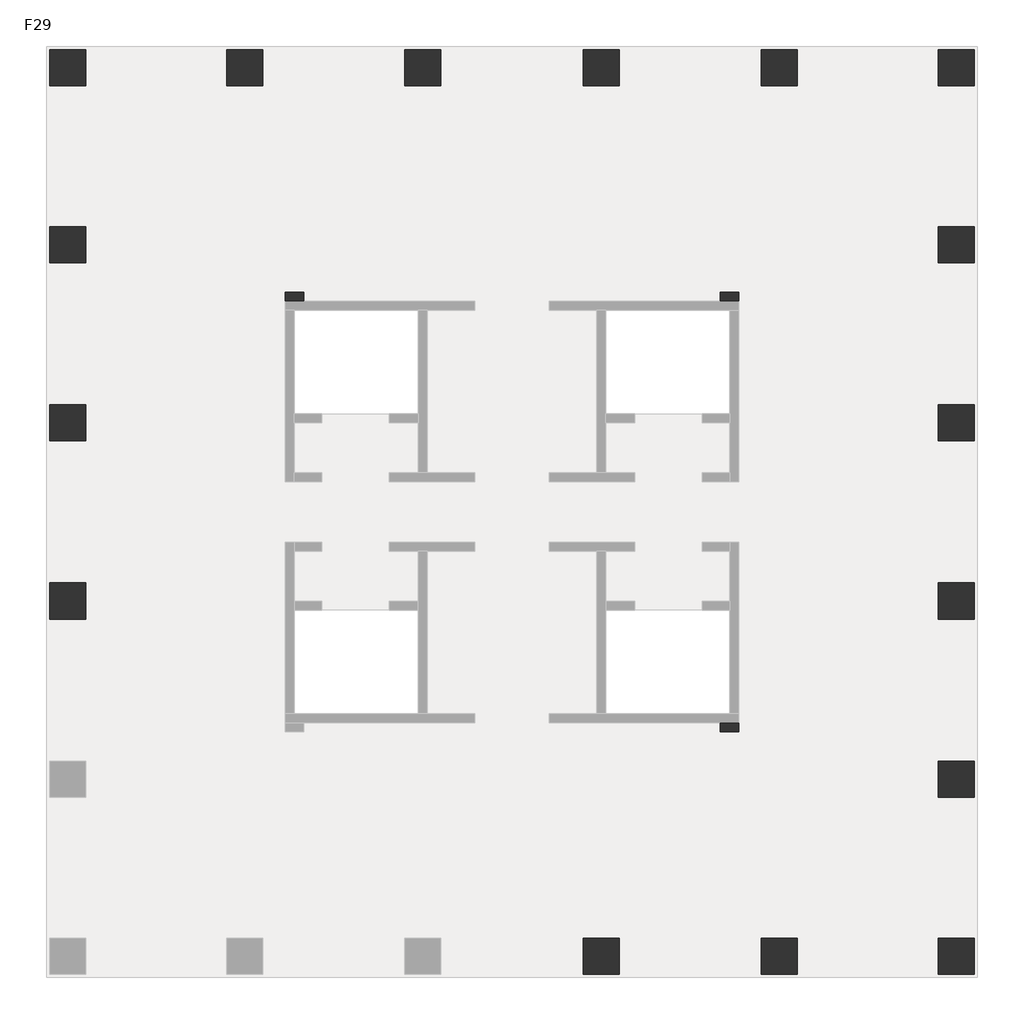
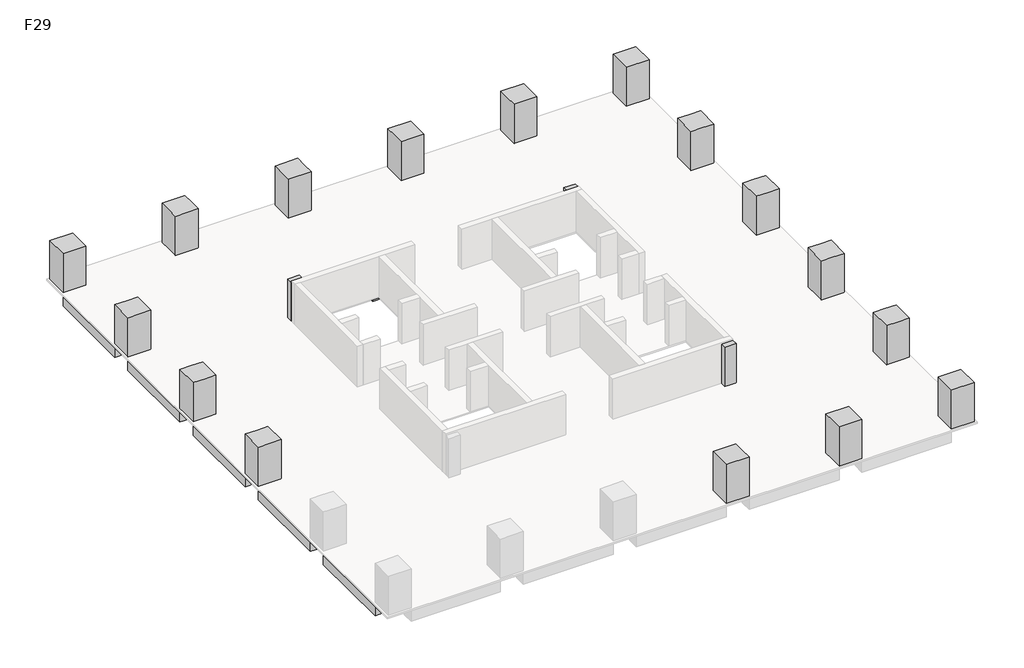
# One storey, part 2 of 2: 19 columns, 17 beams.
"""IFC4 building model written with IfcOpenShell, lengths in millimetres."""

import ifcopenshell
import ifcopenshell.guid

model = None  # the IFC model being written
_history = None  # IfcOwnerHistory: only IFC2X3 demands one
_inside = {}  # id of a spatial element -> (the spatial element, [elements in it])
_under = {}  # id of a project, library or spatial element -> (it, [spatial elements below it])
_declared = {}  # id of a project -> (the project, [libraries it declares])
_typed = {}  # id of a type object -> (the type object, [elements of that type])
_made_of = {}  # id of a material, layer set ... -> (it, [elements and type objects made of it])


def new_model(schema):
    """Start an empty IFC model of exactly this schema.

    Asked for "IFC4X3", IfcOpenShell would pick the latest addendum, in which some entities
    have other attributes; the version numbers below select the first issue.
    IFC2X3 requires an IfcOwnerHistory on every rooted entity: one is made here for all.
    """
    global model, _history
    if schema == "IFC4X3":
        model = ifcopenshell.file(schema_version=(4, 3, 0, 0))
    else:
        model = ifcopenshell.file(schema=schema)
    _inside.clear()
    _under.clear()
    _declared.clear()
    _typed.clear()
    _made_of.clear()
    _history = None
    if model.schema == "IFC2X3":
        org = make("IfcOrganization", Name="unknown")
        user = make(
            "IfcPersonAndOrganization",
            ThePerson=make("IfcPerson", FamilyName="unknown"),
            TheOrganization=org,
        )
        app = make(
            "IfcApplication",
            ApplicationDeveloper=org,
            Version="unknown",
            ApplicationFullName="unknown",
            ApplicationIdentifier="unknown",
        )
        _history = make(
            "IfcOwnerHistory",
            OwningUser=user,
            OwningApplication=app,
            ChangeAction="ADDED",
            CreationDate=0,
        )
    return model


def make(cls, **values):
    """One entity of the class cls with the attributes given. An attribute that is None is left unset."""
    return model.create_entity(
        cls, **{name: value for name, value in values.items() if value is not None}
    )


def rooted(cls, **values):
    """An entity with a GlobalId (a new one), such as an element, a storey or a relation."""
    return make(cls, GlobalId=ifcopenshell.guid.new(), OwnerHistory=_history, **values)


def si_unit(unit_type, name, prefix=None):
    """IfcSIUnit, for example si_unit("LENGTHUNIT", "METRE", prefix="MILLI")."""
    return make("IfcSIUnit", UnitType=unit_type, Prefix=prefix, Name=name)


def assignment(units):
    """IfcUnitAssignment: the units of a project."""
    return None if units is None else make("IfcUnitAssignment", Units=units)


def point(xyz):
    """IfcCartesianPoint."""
    return None if xyz is None else make("IfcCartesianPoint", Coordinates=xyz)


def direction(xyz):
    """IfcDirection."""
    return None if xyz is None else make("IfcDirection", DirectionRatios=xyz)


def frame(location, z_axis=None, x_axis=None):
    """IfcAxis2Placement3D, a coordinate frame: its origin and axes. An axis left out is left unset."""
    return make(
        "IfcAxis2Placement3D",
        Location=point(location),
        Axis=direction(z_axis),
        RefDirection=direction(x_axis),
    )


def origin():
    """The frame at (0, 0, 0) with its axes left unset."""
    return frame((0.0, 0.0, 0.0))


def place(relative_to, where):
    """IfcLocalPlacement: puts the frame where relative to a parent placement (None: the world)."""
    return make(
        "IfcLocalPlacement", PlacementRelTo=relative_to, RelativePlacement=where
    )


def context(
    kind, dimensions, precision=None, world=None, true_north=None, identifier=None
):
    """IfcGeometricRepresentationContext, for example the 3D "Model" context."""
    return make(
        "IfcGeometricRepresentationContext",
        ContextIdentifier=identifier,
        ContextType=kind,
        CoordinateSpaceDimension=dimensions,
        Precision=precision,
        WorldCoordinateSystem=world,
        TrueNorth=true_north,
    )


def project(units=None, contexts=None):
    """IfcProject with its units and contexts."""
    return rooted(
        "IfcProject",
        Name="project",
        RepresentationContexts=contexts,
        UnitsInContext=assignment(units),
    )


def spatial(cls, under=None, at=None, **own):
    """A site, building, storey or space (cls), placed at a placement, below another one or the project."""
    s = rooted(cls, ObjectPlacement=at, **own)
    if under is not None:
        _under.setdefault(under.id(), (under, []))[1].append(s)
    return s


def polyline(points):
    """IfcPolyline through the points."""
    return make("IfcPolyline", Points=[point(p) for p in points])


def outline(outer, holes=None, kind="AREA"):
    """IfcArbitraryClosedProfileDef: a profile drawn as a closed curve; with holes, ...WithVoids."""
    if holes is None:
        return make("IfcArbitraryClosedProfileDef", ProfileType=kind, OuterCurve=outer)
    return make(
        "IfcArbitraryProfileDefWithVoids",
        ProfileType=kind,
        OuterCurve=outer,
        InnerCurves=holes,
    )


def extrude(swept, where, along, depth):
    """IfcExtrudedAreaSolid: the profile swept, set in the frame where, extruded along a direction by depth."""
    return make(
        "IfcExtrudedAreaSolid",
        SweptArea=swept,
        Position=where,
        ExtrudedDirection=direction(along),
        Depth=depth,
    )


def faces_of(points, faces, orient=None, outer=None):
    """IfcFace entities. A face is a list of loops; a loop is a list of indices into points, from 0.

    orient and outer hold one flag for each loop. By default every Orientation is true, the
    first loop of a face is its IfcFaceOuterBound and the others are IfcFaceBound.
    """
    made = []
    for i, loops in enumerate(faces):
        bounds = []
        for j, loop in enumerate(loops):
            is_outer = j == 0 if outer is None else outer[i][j]
            bounds.append(
                make(
                    "IfcFaceOuterBound" if is_outer else "IfcFaceBound",
                    Bound=make("IfcPolyLoop", Polygon=[points[k] for k in loop]),
                    Orientation=True if orient is None else orient[i][j],
                )
            )
        made.append(make("IfcFace", Bounds=bounds))
    return made


def faceted_brep(points, faces, orient=None, outer=None, voids=None):
    """IfcFacetedBrep: a solid bounded by flat faces; with voids (closed shells), ...WithVoids."""
    shared = [point(p) for p in points]
    hull = make("IfcClosedShell", CfsFaces=faces_of(shared, faces, orient, outer))
    if voids is None:
        return make("IfcFacetedBrep", Outer=hull)
    return make(
        "IfcFacetedBrepWithVoids",
        Outer=hull,
        Voids=[
            make(cls, CfsFaces=faces_of(shared, fs, o, b)) for cls, fs, o, b in voids
        ],
    )


def shape(context_of_items, identifier, shape_type, items):
    """IfcShapeRepresentation: the items that make up one representation, for example the "Body"."""
    return make(
        "IfcShapeRepresentation",
        ContextOfItems=context_of_items,
        RepresentationIdentifier=identifier,
        RepresentationType=shape_type,
        Items=items,
    )


def made_of(thing, what):
    """Note that an element or type object is made of a material, layer set ...; save() writes the relation."""
    if what is not None:
        _made_of.setdefault(what.id(), (what, []))[1].append(thing)
    return thing


def element(
    cls,
    number,
    at=None,
    inside=None,
    cuts=None,
    type_object=None,
    material=None,
    context=None,
    identifier="Body",
    shape_type=None,
    held_by="IfcProductDefinitionShape",
    body=None,
    shapes=None,
    **own,
):
    """One element of the class cls, such as IfcWall. Its Tag is "e" and its number.

    at: its placement. inside: the storey or other place that contains it. cuts: it is an
    opening in that element (IfcRelVoidsElement). A single representation is given by context,
    identifier, shape_type and body (its items); several are given by shapes. held_by: the class
    of the entity that holds the representations. save() writes the other relations.
    """
    e = rooted(cls, Tag="e%d" % number, ObjectPlacement=at, **own)
    if body is not None:
        shapes = [shape(context, identifier, shape_type, body)]
    if shapes is not None:
        e.Representation = make(held_by, Representations=shapes)
    if inside is not None:
        _inside.setdefault(inside.id(), (inside, []))[1].append(e)
    if cuts is not None:
        rooted(
            "IfcRelVoidsElement", RelatingBuildingElement=cuts, RelatedOpeningElement=e
        )
    if type_object is not None:
        _typed.setdefault(type_object.id(), (type_object, []))[1].append(e)
    return made_of(e, material)


def aggregate(whole, parts):
    """IfcRelAggregates: a whole, such as a stair, and the parts it consists of."""
    return rooted("IfcRelAggregates", RelatingObject=whole, RelatedObjects=parts)


def save(model, path):
    """Write the relations noted so far, then the file.

    IfcRelAggregates (storeys below a building ...), IfcRelContainedInSpatialStructure (elements
    in a storey), IfcRelDefinesByType, IfcRelAssociatesMaterial and IfcRelDeclares: one each for
    every whole, place, type object, material and project.
    """
    for whole, parts in _under.values():
        aggregate(whole, parts)
    for where, things in _inside.values():
        rooted(
            "IfcRelContainedInSpatialStructure",
            RelatedElements=things,
            RelatingStructure=where,
        )
    for kind, things in _typed.values():
        rooted("IfcRelDefinesByType", RelatedObjects=things, RelatingType=kind)
    for what, things in _made_of.values():
        rooted("IfcRelAssociatesMaterial", RelatedObjects=things, RelatingMaterial=what)
    for by, libraries in _declared.values():
        rooted("IfcRelDeclares", RelatingContext=by, RelatedDefinitions=libraries)
    model.write(path)


model = new_model("IFC4")

# Units and contexts
model_context = context("Model", 3, world=origin())
ifc_project = project(units=[si_unit("LENGTHUNIT", "METRE", prefix="MILLI")], contexts=[model_context])

# Site, building, storey
site = spatial("IfcSite", under=ifc_project)
building = spatial("IfcBuilding", under=site)
storey = spatial("IfcBuildingStorey", under=building, Name="F29", Elevation=105000.0)

# Beams
placement = place(None, origin())
element("IfcBeam", 1, ObjectType="混凝土 - 矩形梁 : KL(5)-800x1000", at=placement, inside=storey, context=model_context, shape_type="SweptSolid", body=[
    extrude(outline(polyline([(25327.3257831, 27051.0498658), (25327.3257831, 26251.0498658), (19077.3257831, 26251.0498658), (19077.3257831, 27051.0498658), (25327.3257831, 27051.0498658)])), frame((0.0, 0.0, 104000.0), z_axis=(0.0, 0.0, 1.0), x_axis=(1.0, 0.0, 0.0)), (0.0, 0.0, 1.0), 900.0),
    extrude(outline(polyline([(-12472.6742169, 26251.0498658), (-12472.6742169, 27051.0498658), (-6222.6742169, 27051.0498658), (-6222.6742169, 26251.0498658), (-12472.6742169, 26251.0498658)])), frame((0.0, 0.0, 104000.0), z_axis=(0.0, 0.0, 1.0), x_axis=(1.0, 0.0, 0.0)), (0.0, 0.0, 1.0), 900.0),
    extrude(outline(polyline([(-4622.6742169, 26251.0498658), (-4622.6742169, 27051.0498658), (1677.3257831, 27051.0498658), (1677.3257831, 26251.0498658), (-4622.6742169, 26251.0498658)])), frame((0.0, 0.0, 104000.0), z_axis=(0.0, 0.0, 1.0), x_axis=(1.0, 0.0, 0.0)), (0.0, 0.0, 1.0), 900.0),
    extrude(outline(polyline([(3277.3257831, 26251.0498658), (3277.3257831, 27051.0498658), (9577.3257831, 27051.0498658), (9577.3257831, 26251.0498658), (3277.3257831, 26251.0498658)])), frame((0.0, 0.0, 104000.0), z_axis=(0.0, 0.0, 1.0), x_axis=(1.0, 0.0, 0.0)), (0.0, 0.0, 1.0), 900.0),
    extrude(outline(polyline([(11177.3257831, 26251.0498658), (11177.3257831, 27051.0498658), (17477.3257831, 27051.0498658), (17477.3257831, 26251.0498658), (11177.3257831, 26251.0498658)])), frame((0.0, 0.0, 104000.0), z_axis=(0.0, 0.0, 1.0), x_axis=(1.0, 0.0, 0.0)), (0.0, 0.0, 1.0), 900.0),
])
element("IfcBeam", 2, ObjectType="混凝土 - 矩形梁 : KL(5)-800x1000", at=placement, inside=storey, context=model_context, shape_type="SweptSolid", body=[
    extrude(outline(polyline([(26927.3257831, -12348.9501342), (26127.3257831, -12348.9501342), (26127.3257831, -6098.9501342), (26927.3257831, -6098.9501342), (26927.3257831, -12348.9501342)])), frame((0.0, 0.0, 104000.0), z_axis=(0.0, 0.0, 1.0), x_axis=(1.0, 0.0, 0.0)), (0.0, 0.0, 1.0), 900.0),
    extrude(outline(polyline([(26127.3257831, 25451.0498658), (26927.3257831, 25451.0498658), (26927.3257831, 19201.0498658), (26127.3257831, 19201.0498658), (26127.3257831, 25451.0498658)])), frame((0.0, 0.0, 104000.0), z_axis=(0.0, 0.0, 1.0), x_axis=(1.0, 0.0, 0.0)), (0.0, 0.0, 1.0), 900.0),
    extrude(outline(polyline([(26127.3257831, 17601.0498658), (26927.3257831, 17601.0498658), (26927.3257831, 11301.0498658), (26127.3257831, 11301.0498658), (26127.3257831, 17601.0498658)])), frame((0.0, 0.0, 104000.0), z_axis=(0.0, 0.0, 1.0), x_axis=(1.0, 0.0, 0.0)), (0.0, 0.0, 1.0), 900.0),
    extrude(outline(polyline([(26127.3257831, 9701.0498658), (26927.3257831, 9701.0498658), (26927.3257831, 3401.0498658), (26127.3257831, 3401.0498658), (26127.3257831, 9701.0498658)])), frame((0.0, 0.0, 104000.0), z_axis=(0.0, 0.0, 1.0), x_axis=(1.0, 0.0, 0.0)), (0.0, 0.0, 1.0), 900.0),
    extrude(outline(polyline([(26127.3257831, 1801.0498658), (26927.3257831, 1801.0498658), (26927.3257831, -4498.9501342), (26127.3257831, -4498.9501342), (26127.3257831, 1801.0498658)])), frame((0.0, 0.0, 104000.0), z_axis=(0.0, 0.0, 1.0), x_axis=(1.0, 0.0, 0.0)), (0.0, 0.0, 1.0), 900.0),
])
element("IfcBeam", 3, ObjectType="混凝土 - 矩形梁 : KL(5)-800x1000", at=placement, inside=storey, context=model_context, shape_type="SweptSolid", body=[
    extrude(outline(polyline([(-14072.6742169, 25451.0498658), (-13272.6742169, 25451.0498658), (-13272.6742169, 19201.0498658), (-14072.6742169, 19201.0498658), (-14072.6742169, 25451.0498658)])), frame((0.0, 0.0, 104000.0), z_axis=(0.0, 0.0, 1.0), x_axis=(1.0, 0.0, 0.0)), (0.0, 0.0, 1.0), 900.0),
    extrude(outline(polyline([(-13272.6742169, -12348.9501342), (-14072.6742169, -12348.9501342), (-14072.6742169, -6098.9501342), (-13272.6742169, -6098.9501342), (-13272.6742169, -12348.9501342)])), frame((0.0, 0.0, 104000.0), z_axis=(0.0, 0.0, 1.0), x_axis=(1.0, 0.0, 0.0)), (0.0, 0.0, 1.0), 900.0),
    extrude(outline(polyline([(-14072.6742169, 17601.0498658), (-13272.6742169, 17601.0498658), (-13272.6742169, 11301.0498658), (-14072.6742169, 11301.0498658), (-14072.6742169, 17601.0498658)])), frame((0.0, 0.0, 104000.0), z_axis=(0.0, 0.0, 1.0), x_axis=(1.0, 0.0, 0.0)), (0.0, 0.0, 1.0), 900.0),
    extrude(outline(polyline([(-14072.6742169, 9701.0498658), (-13272.6742169, 9701.0498658), (-13272.6742169, 3401.0498658), (-14072.6742169, 3401.0498658), (-14072.6742169, 9701.0498658)])), frame((0.0, 0.0, 104000.0), z_axis=(0.0, 0.0, 1.0), x_axis=(1.0, 0.0, 0.0)), (0.0, 0.0, 1.0), 900.0),
    extrude(outline(polyline([(-14072.6742169, 1801.0498658), (-13272.6742169, 1801.0498658), (-13272.6742169, -4498.9501342), (-14072.6742169, -4498.9501342), (-14072.6742169, 1801.0498658)])), frame((0.0, 0.0, 104000.0), z_axis=(0.0, 0.0, 1.0), x_axis=(1.0, 0.0, 0.0)), (0.0, 0.0, 1.0), 900.0),
])
element("IfcBeam", 4, ObjectType="混凝土 - 矩形梁 : L1-800x500", at=placement, inside=storey, context=model_context, shape_type="SweptSolid", body=[
    extrude(outline(polyline([(-12472.6742169, 2201.0498658), (-12472.6742169, 3001.0498658), (-3622.6742169, 3001.0498658), (-3622.6742169, 2201.0498658), (-12472.6742169, 2201.0498658)])), frame((0.0, 0.0, 104500.0), z_axis=(0.0, 0.0, 1.0), x_axis=(1.0, 0.0, 0.0)), (0.0, 0.0, 1.0), 400.0),
])
element("IfcBeam", 5, ObjectType="混凝土 - 矩形梁 : L1-800x500", at=placement, inside=storey, context=model_context, shape_type="SweptSolid", body=[
    extrude(outline(polyline([(-12472.6742169, 10101.0498658), (-12472.6742169, 10901.0498658), (-3622.6742169, 10901.0498658), (-3622.6742169, 10101.0498658), (-12472.6742169, 10101.0498658)])), frame((0.0, 0.0, 104500.0), z_axis=(0.0, 0.0, 1.0), x_axis=(1.0, 0.0, 0.0)), (0.0, 0.0, 1.0), 400.0),
])
element("IfcBeam", 6, ObjectType="混凝土 - 矩形梁 : L1-800x500", at=placement, inside=storey, context=model_context, shape_type="Brep", body=[
    faceted_brep([(-12472.6742169, 17789.85471, 104500.0), (-3622.6742169, 15588.3621727, 104500.0), (-3622.6742169, 15588.3621727, 104900.0), (-12472.6742169, 17789.85471, 104900.0), (-3173.6696907, 16301.0498658, 104500.0), (-3622.6742169, 16301.0498658, 104500.0), (-3622.6742169, 15901.0498658, 104500.0), (-12472.6742169, 18614.2350714, 104500.0), (-3746.9473979, 16443.6562607, 104500.0), (-12472.6742169, 18614.2350714, 104900.0), (-3746.9473979, 16443.6562607, 104900.0), (-3173.6696907, 16301.0498658, 104900.0), (-3622.6742169, 16301.0498658, 104900.0)], [[[0, 1, 2, 3]], [[4, 5, 6, 1, 0, 7, 8]], [[4, 8, 7, 9, 10, 11]], [[6, 5, 12, 2, 1]], [[5, 4, 11, 12]], [[7, 0, 3, 9]], [[3, 2, 12, 11, 10, 9]]]),
])
element("IfcBeam", 7, ObjectType="混凝土 - 矩形梁 : L1-800x500", at=placement, inside=storey, context=model_context, shape_type="SweptSolid", body=[
    extrude(outline(polyline([(-3173.6696907, 16301.0498658), (-3746.9473979, 16443.6562607), (-5661.5624638, 25451.0498658), (-4843.6893517, 25451.0498658), (-2898.7618154, 16301.0498658), (-3173.6696907, 16301.0498658)])), frame((0.0, 0.0, 104500.0), z_axis=(0.0, 0.0, 1.0), x_axis=(1.0, 0.0, 0.0)), (0.0, 0.0, 1.0), 400.0),
])
element("IfcBeam", 8, ObjectType="混凝土 - 矩形梁 : L1-800x500", at=placement, inside=storey, context=model_context, shape_type="SweptSolid", body=[
    extrude(outline(polyline([(2077.3257831, 25451.0498658), (2877.3257831, 25451.0498658), (2877.3257831, 15901.0498658), (2077.3257831, 15901.0498658), (2077.3257831, 25451.0498658)])), frame((0.0, 0.0, 104500.0), z_axis=(0.0, 0.0, 1.0), x_axis=(1.0, 0.0, 0.0)), (0.0, 0.0, 1.0), 400.0),
])
element("IfcBeam", 9, ObjectType="混凝土 - 矩形梁 : L1-800x500", at=placement, inside=storey, context=model_context, shape_type="SweptSolid", body=[
    extrude(outline(polyline([(9977.3257831, 25451.0498658), (10777.3257831, 25451.0498658), (10777.3257831, 15901.0498658), (9977.3257831, 15901.0498658), (9977.3257831, 25451.0498658)])), frame((0.0, 0.0, 104500.0), z_axis=(0.0, 0.0, 1.0), x_axis=(1.0, 0.0, 0.0)), (0.0, 0.0, 1.0), 400.0),
])
element("IfcBeam", 10, ObjectType="混凝土 - 矩形梁 : L1-800x500", at=placement, inside=storey, context=model_context, shape_type="SweptSolid", body=[
    extrude(outline(polyline([(2877.3257831, -12348.9501342), (2077.3257831, -12348.9501342), (2077.3257831, -2798.9501342), (2877.3257831, -2798.9501342), (2877.3257831, -12348.9501342)])), frame((0.0, 0.0, 104500.0), z_axis=(0.0, 0.0, 1.0), x_axis=(1.0, 0.0, 0.0)), (0.0, 0.0, 1.0), 400.0),
])
element("IfcBeam", 11, ObjectType="混凝土 - 矩形梁 : L1-800x500", at=placement, inside=storey, context=model_context, shape_type="SweptSolid", body=[
    extrude(outline(polyline([(10777.3257831, -12348.9501342), (9977.3257831, -12348.9501342), (9977.3257831, -2798.9501342), (10777.3257831, -2798.9501342), (10777.3257831, -12348.9501342)])), frame((0.0, 0.0, 104500.0), z_axis=(0.0, 0.0, 1.0), x_axis=(1.0, 0.0, 0.0)), (0.0, 0.0, 1.0), 400.0),
])
element("IfcBeam", 12, ObjectType="混凝土 - 矩形梁 : L1-800x500", at=placement, inside=storey, context=model_context, shape_type="Brep", body=[
    faceted_brep([(25327.3257831, -4687.7549784, 104500.0), (16477.3257831, -2486.2624411, 104500.0), (16477.3257831, -2486.2624411, 104900.0), (25327.3257831, -4687.7549784, 104900.0), (16028.3212569, -3198.9501342, 104500.0), (16477.3257831, -3198.9501342, 104500.0), (16477.3257831, -2798.9501342, 104500.0), (25327.3257831, -5512.1353397, 104500.0), (16601.5989641, -3341.556529, 104500.0), (25327.3257831, -5512.1353397, 104900.0), (16601.5989641, -3341.556529, 104900.0), (16028.3212569, -3198.9501342, 104900.0), (16477.3257831, -3198.9501342, 104900.0)], [[[0, 1, 2, 3]], [[4, 5, 6, 1, 0, 7, 8]], [[4, 8, 7, 9, 10, 11]], [[6, 5, 12, 2, 1]], [[5, 4, 11, 12]], [[7, 0, 3, 9]], [[3, 2, 12, 11, 10, 9]]]),
])
element("IfcBeam", 13, ObjectType="混凝土 - 矩形梁 : L1-800x500", at=placement, inside=storey, context=model_context, shape_type="SweptSolid", body=[
    extrude(outline(polyline([(16028.3212569, -3198.9501342), (16601.5989641, -3341.556529), (18516.21403, -12348.9501342), (17698.3409179, -12348.9501342), (15753.4133817, -3198.9501342), (16028.3212569, -3198.9501342)])), frame((0.0, 0.0, 104500.0), z_axis=(0.0, 0.0, 1.0), x_axis=(1.0, 0.0, 0.0)), (0.0, 0.0, 1.0), 400.0),
])
element("IfcBeam", 14, ObjectType="混凝土 - 矩形梁 : L1-800x500", at=placement, inside=storey, context=model_context, shape_type="SweptSolid", body=[
    extrude(outline(polyline([(25327.3257831, 3001.0498658), (25327.3257831, 2201.0498658), (16477.3257831, 2201.0498658), (16477.3257831, 3001.0498658), (25327.3257831, 3001.0498658)])), frame((0.0, 0.0, 104500.0), z_axis=(0.0, 0.0, 1.0), x_axis=(1.0, 0.0, 0.0)), (0.0, 0.0, 1.0), 400.0),
])
element("IfcBeam", 15, ObjectType="混凝土 - 矩形梁 : L1-800x500", at=placement, inside=storey, context=model_context, shape_type="SweptSolid", body=[
    extrude(outline(polyline([(25327.3257831, 10901.0498658), (25327.3257831, 10101.0498658), (16477.3257831, 10101.0498658), (16477.3257831, 10901.0498658), (25327.3257831, 10901.0498658)])), frame((0.0, 0.0, 104500.0), z_axis=(0.0, 0.0, 1.0), x_axis=(1.0, 0.0, 0.0)), (0.0, 0.0, 1.0), 400.0),
])
element("IfcBeam", 16, ObjectType="混凝土 - 矩形梁 : L1-800x500", at=placement, inside=storey, context=model_context, shape_type="Brep", body=[
    faceted_brep([(25327.3257831, 18610.6867312, 104500.0), (16590.8993897, 16393.3196262, 104500.0), (16227.3565337, 16301.0498658, 104500.0), (16227.3565337, 16301.0498658, 104900.0), (16590.8993897, 16393.3196262, 104900.0), (25327.3257831, 18610.6867312, 104900.0), (16477.3257831, 16301.0498658, 104500.0), (25327.3257831, 17785.3216299, 104500.0), (16477.3257831, 15539.1287365, 104500.0), (16477.3257831, 15901.0498658, 104500.0), (25327.3257831, 17785.3216299, 104900.0), (16477.3257831, 15539.1287365, 104900.0), (16477.3257831, 16301.0498658, 104900.0)], [[[0, 1, 2, 3, 4, 5]], [[6, 2, 1, 0, 7, 8, 9]], [[8, 7, 10, 11]], [[9, 8, 11, 12, 6]], [[2, 6, 12, 3]], [[7, 0, 5, 10]], [[5, 4, 3, 12, 11, 10]]]),
])
element("IfcBeam", 17, ObjectType="混凝土 - 矩形梁 : L1-800x500", at=placement, inside=storey, context=model_context, shape_type="SweptSolid", body=[
    extrude(outline(polyline([(16590.8993897, 16393.3196262), (16227.3565337, 16301.0498658), (15753.4133817, 16301.0498658), (17698.3409179, 25451.0498658), (18516.21403, 25451.0498658), (16590.8993897, 16393.3196262)])), frame((0.0, 0.0, 104500.0), z_axis=(0.0, 0.0, 1.0), x_axis=(1.0, 0.0, 0.0)), (0.0, 0.0, 1.0), 400.0),
])

# Columns
element("IfcColumn", 18, ObjectType="混凝土 - 矩形 - 柱 : Z1-1600x1600", at=placement, inside=storey, context=model_context, shape_type="SweptSolid", body=[
    extrude(outline(polyline([(-12472.6742169, 27051.0498658), (-12472.6742169, 25451.0498658), (-14072.6742169, 25451.0498658), (-14072.6742169, 27051.0498658), (-12472.6742169, 27051.0498658)])), frame((0.0, 0.0, 105000.0), z_axis=(0.0, 0.0, 1.0), x_axis=(1.0, 0.0, 0.0)), (0.0, 0.0, 1.0), 2900.0),
])
element("IfcColumn", 19, ObjectType="混凝土 - 矩形 - 柱 : Z1-1600x1600", at=placement, inside=storey, context=model_context, shape_type="Brep", body=[
    faceted_brep([(-4622.6742169, 27051.0498658, 105000.0), (-4622.6742169, 25451.0498658, 105000.0), (-6222.6742169, 25451.0498658, 105000.0), (-6222.6742169, 27051.0498658, 105000.0), (-4622.6742169, 27051.0498658, 107000.0), (-4622.6742169, 27051.0498658, 107900.0), (-4622.6742169, 26251.0498658, 107900.0), (-4622.6742169, 25451.0498658, 107900.0), (-6222.6742169, 25451.0498658, 107900.0), (-6222.6742169, 26251.0498658, 107900.0), (-6222.6742169, 27051.0498658, 107900.0), (-6222.6742169, 27051.0498658, 107000.0)], [[[0, 1, 2, 3]], [[1, 0, 4, 5, 6, 7]], [[2, 1, 7, 8]], [[3, 2, 8, 9, 10, 11]], [[0, 3, 11, 10, 5, 4]], [[7, 6, 5, 10, 9, 8]]]),
])
element("IfcColumn", 20, ObjectType="混凝土 - 矩形 - 柱 : Z1-1600x1600", at=placement, inside=storey, context=model_context, shape_type="Brep", body=[
    faceted_brep([(-12472.6742169, 19201.0498658, 105000.0), (-12472.6742169, 17601.0498658, 105000.0), (-14072.6742169, 17601.0498658, 105000.0), (-14072.6742169, 19201.0498658, 105000.0), (-12472.6742169, 19201.0498658, 107900.0), (-12472.6742169, 17601.0498658, 107900.0), (-13272.6742169, 17601.0498658, 107900.0), (-14072.6742169, 17601.0498658, 107900.0), (-14072.6742169, 17601.0498658, 107000.0), (-14072.6742169, 19201.0498658, 107900.0), (-14072.6742169, 19201.0498658, 107000.0), (-13272.6742169, 19201.0498658, 107900.0)], [[[0, 1, 2, 3]], [[1, 0, 4, 5]], [[2, 1, 5, 6, 7, 8]], [[3, 2, 8, 7, 9, 10]], [[0, 3, 10, 9, 11, 4]], [[5, 4, 11, 9, 7, 6]]]),
])
element("IfcColumn", 21, ObjectType="混凝土 - 矩形 - 柱 : Z1-1600x1600", at=placement, inside=storey, context=model_context, shape_type="Brep", body=[
    faceted_brep([(-12472.6742169, 11301.0498658, 105000.0), (-12472.6742169, 9701.0498658, 105000.0), (-14072.6742169, 9701.0498658, 105000.0), (-14072.6742169, 11301.0498658, 105000.0), (-12472.6742169, 11301.0498658, 107900.0), (-12472.6742169, 9701.0498658, 107900.0), (-13272.6742169, 9701.0498658, 107900.0), (-14072.6742169, 9701.0498658, 107900.0), (-14072.6742169, 9701.0498658, 107000.0), (-14072.6742169, 11301.0498658, 107900.0), (-14072.6742169, 11301.0498658, 107000.0), (-13272.6742169, 11301.0498658, 107900.0)], [[[0, 1, 2, 3]], [[1, 0, 4, 5]], [[2, 1, 5, 6, 7, 8]], [[3, 2, 8, 7, 9, 10]], [[0, 3, 10, 9, 11, 4]], [[5, 4, 11, 9, 7, 6]]]),
])
element("IfcColumn", 22, ObjectType="混凝土 - 矩形 - 柱 : Z1-1600x1600", at=placement, inside=storey, context=model_context, shape_type="Brep", body=[
    faceted_brep([(-12472.6742169, 3401.0498658, 105000.0), (-12472.6742169, 1801.0498658, 105000.0), (-14072.6742169, 1801.0498658, 105000.0), (-14072.6742169, 3401.0498658, 105000.0), (-12472.6742169, 3401.0498658, 107900.0), (-12472.6742169, 1801.0498658, 107900.0), (-13272.6742169, 1801.0498658, 107900.0), (-14072.6742169, 1801.0498658, 107900.0), (-14072.6742169, 1801.0498658, 107000.0), (-14072.6742169, 3401.0498658, 107900.0), (-14072.6742169, 3401.0498658, 107000.0), (-13272.6742169, 3401.0498658, 107900.0)], [[[0, 1, 2, 3]], [[1, 0, 4, 5]], [[2, 1, 5, 6, 7, 8]], [[3, 2, 8, 7, 9, 10]], [[0, 3, 10, 9, 11, 4]], [[5, 4, 11, 9, 7, 6]]]),
])
element("IfcColumn", 23, ObjectType="混凝土 - 矩形 - 柱 : Z1-1600x1600", at=placement, inside=storey, context=model_context, shape_type="SweptSolid", body=[
    extrude(outline(polyline([(25327.3257831, 27051.0498658), (26927.3257831, 27051.0498658), (26927.3257831, 25451.0498658), (25327.3257831, 25451.0498658), (25327.3257831, 27051.0498658)])), frame((0.0, 0.0, 105000.0), z_axis=(0.0, 0.0, 1.0), x_axis=(1.0, 0.0, 0.0)), (0.0, 0.0, 1.0), 2900.0),
])
element("IfcColumn", 24, ObjectType="混凝土 - 矩形 - 柱 : Z1-1600x1600", at=placement, inside=storey, context=model_context, shape_type="Brep", body=[
    faceted_brep([(25327.3257831, 19201.0498658, 105000.0), (26927.3257831, 19201.0498658, 105000.0), (26927.3257831, 17601.0498658, 105000.0), (25327.3257831, 17601.0498658, 105000.0), (25327.3257831, 17601.0498658, 107900.0), (25327.3257831, 19201.0498658, 107900.0), (26927.3257831, 17601.0498658, 107000.0), (26927.3257831, 17601.0498658, 107900.0), (26127.3257831, 17601.0498658, 107900.0), (26927.3257831, 19201.0498658, 107000.0), (26927.3257831, 19201.0498658, 107900.0), (26127.3257831, 19201.0498658, 107900.0)], [[[0, 1, 2, 3]], [[0, 3, 4, 5]], [[3, 2, 6, 7, 8, 4]], [[2, 1, 9, 10, 7, 6]], [[1, 0, 5, 11, 10, 9]], [[5, 4, 8, 7, 10, 11]]]),
])
element("IfcColumn", 25, ObjectType="混凝土 - 矩形 - 柱 : Z1-1600x1600", at=placement, inside=storey, context=model_context, shape_type="Brep", body=[
    faceted_brep([(25327.3257831, 11301.0498658, 105000.0), (26927.3257831, 11301.0498658, 105000.0), (26927.3257831, 9701.0498658, 105000.0), (25327.3257831, 9701.0498658, 105000.0), (25327.3257831, 9701.0498658, 107900.0), (25327.3257831, 11301.0498658, 107900.0), (26927.3257831, 9701.0498658, 107000.0), (26927.3257831, 9701.0498658, 107900.0), (26127.3257831, 9701.0498658, 107900.0), (26927.3257831, 11301.0498658, 107000.0), (26927.3257831, 11301.0498658, 107900.0), (26127.3257831, 11301.0498658, 107900.0)], [[[0, 1, 2, 3]], [[0, 3, 4, 5]], [[3, 2, 6, 7, 8, 4]], [[2, 1, 9, 10, 7, 6]], [[1, 0, 5, 11, 10, 9]], [[5, 4, 8, 7, 10, 11]]]),
])
element("IfcColumn", 26, ObjectType="混凝土 - 矩形 - 柱 : Z1-1600x1600", at=placement, inside=storey, context=model_context, shape_type="Brep", body=[
    faceted_brep([(25327.3257831, 3401.0498658, 105000.0), (26927.3257831, 3401.0498658, 105000.0), (26927.3257831, 1801.0498658, 105000.0), (25327.3257831, 1801.0498658, 105000.0), (25327.3257831, 1801.0498658, 107900.0), (25327.3257831, 3401.0498658, 107900.0), (26927.3257831, 1801.0498658, 107000.0), (26927.3257831, 1801.0498658, 107900.0), (26127.3257831, 1801.0498658, 107900.0), (26927.3257831, 3401.0498658, 107000.0), (26927.3257831, 3401.0498658, 107900.0), (26127.3257831, 3401.0498658, 107900.0)], [[[0, 1, 2, 3]], [[0, 3, 4, 5]], [[3, 2, 6, 7, 8, 4]], [[2, 1, 9, 10, 7, 6]], [[1, 0, 5, 11, 10, 9]], [[5, 4, 8, 7, 10, 11]]]),
])
element("IfcColumn", 27, ObjectType="混凝土 - 矩形 - 柱 : Z1-1600x1600", at=placement, inside=storey, context=model_context, shape_type="Brep", body=[
    faceted_brep([(25327.3257831, -4498.9501342, 105000.0), (26927.3257831, -4498.9501342, 105000.0), (26927.3257831, -6098.9501342, 105000.0), (25327.3257831, -6098.9501342, 105000.0), (25327.3257831, -6098.9501342, 107900.0), (25327.3257831, -4498.9501342, 107900.0), (26927.3257831, -6098.9501342, 107000.0), (26927.3257831, -6098.9501342, 107900.0), (26127.3257831, -6098.9501342, 107900.0), (26927.3257831, -4498.9501342, 107000.0), (26927.3257831, -4498.9501342, 107900.0), (26127.3257831, -4498.9501342, 107900.0)], [[[0, 1, 2, 3]], [[0, 3, 4, 5]], [[3, 2, 6, 7, 8, 4]], [[2, 1, 9, 10, 7, 6]], [[1, 0, 5, 11, 10, 9]], [[5, 4, 8, 7, 10, 11]]]),
])
element("IfcColumn", 28, ObjectType="混凝土 - 矩形 - 柱 : Z1-1600x1600", at=placement, inside=storey, context=model_context, shape_type="SweptSolid", body=[
    extrude(outline(polyline([(25327.3257831, -12348.9501342), (26927.3257831, -12348.9501342), (26927.3257831, -13948.9501342), (25327.3257831, -13948.9501342), (25327.3257831, -12348.9501342)])), frame((0.0, 0.0, 105000.0), z_axis=(0.0, 0.0, 1.0), x_axis=(1.0, 0.0, 0.0)), (0.0, 0.0, 1.0), 2900.0),
])
element("IfcColumn", 29, ObjectType="混凝土 - 矩形 - 柱 : Z1-1600x1600", at=placement, inside=storey, context=model_context, shape_type="Brep", body=[
    faceted_brep([(3277.3257831, 27051.0498658, 105000.0), (3277.3257831, 25451.0498658, 105000.0), (1677.3257831, 25451.0498658, 105000.0), (1677.3257831, 27051.0498658, 105000.0), (3277.3257831, 27051.0498658, 107000.0), (3277.3257831, 27051.0498658, 107900.0), (3277.3257831, 26251.0498658, 107900.0), (3277.3257831, 25451.0498658, 107900.0), (1677.3257831, 25451.0498658, 107900.0), (1677.3257831, 26251.0498658, 107900.0), (1677.3257831, 27051.0498658, 107900.0), (1677.3257831, 27051.0498658, 107000.0)], [[[0, 1, 2, 3]], [[1, 0, 4, 5, 6, 7]], [[2, 1, 7, 8]], [[3, 2, 8, 9, 10, 11]], [[0, 3, 11, 10, 5, 4]], [[7, 6, 5, 10, 9, 8]]]),
])
element("IfcColumn", 30, ObjectType="混凝土 - 矩形 - 柱 : Z1-1600x1600", at=placement, inside=storey, context=model_context, shape_type="Brep", body=[
    faceted_brep([(11177.3257831, 27051.0498658, 105000.0), (11177.3257831, 25451.0498658, 105000.0), (9577.3257831, 25451.0498658, 105000.0), (9577.3257831, 27051.0498658, 105000.0), (11177.3257831, 27051.0498658, 107000.0), (11177.3257831, 27051.0498658, 107900.0), (11177.3257831, 26251.0498658, 107900.0), (11177.3257831, 25451.0498658, 107900.0), (9577.3257831, 25451.0498658, 107900.0), (9577.3257831, 26251.0498658, 107900.0), (9577.3257831, 27051.0498658, 107900.0), (9577.3257831, 27051.0498658, 107000.0)], [[[0, 1, 2, 3]], [[1, 0, 4, 5, 6, 7]], [[2, 1, 7, 8]], [[3, 2, 8, 9, 10, 11]], [[0, 3, 11, 10, 5, 4]], [[7, 6, 5, 10, 9, 8]]]),
])
element("IfcColumn", 31, ObjectType="混凝土 - 矩形 - 柱 : Z1-1600x1600", at=placement, inside=storey, context=model_context, shape_type="Brep", body=[
    faceted_brep([(19077.3257831, 27051.0498658, 105000.0), (19077.3257831, 25451.0498658, 105000.0), (17477.3257831, 25451.0498658, 105000.0), (17477.3257831, 27051.0498658, 105000.0), (19077.3257831, 27051.0498658, 107000.0), (19077.3257831, 27051.0498658, 107900.0), (19077.3257831, 26251.0498658, 107900.0), (19077.3257831, 25451.0498658, 107900.0), (17477.3257831, 25451.0498658, 107900.0), (17477.3257831, 26251.0498658, 107900.0), (17477.3257831, 27051.0498658, 107900.0), (17477.3257831, 27051.0498658, 107000.0)], [[[0, 1, 2, 3]], [[1, 0, 4, 5, 6, 7]], [[2, 1, 7, 8]], [[3, 2, 8, 9, 10, 11]], [[0, 3, 11, 10, 5, 4]], [[7, 6, 5, 10, 9, 8]]]),
])
element("IfcColumn", 32, ObjectType="混凝土 - 矩形 - 柱 : Z1-1600x1600", at=placement, inside=storey, context=model_context, shape_type="Brep", body=[
    faceted_brep([(11177.3257831, -12348.9501342, 105000.0), (11177.3257831, -13948.9501342, 105000.0), (9577.3257831, -13948.9501342, 105000.0), (9577.3257831, -12348.9501342, 105000.0), (11177.3257831, -12348.9501342, 107900.0), (11177.3257831, -13148.9501342, 107900.0), (11177.3257831, -13948.9501342, 107900.0), (11177.3257831, -13948.9501342, 107000.0), (9577.3257831, -13948.9501342, 107900.0), (9577.3257831, -13948.9501342, 107000.0), (9577.3257831, -13148.9501342, 107900.0), (9577.3257831, -12348.9501342, 107900.0)], [[[0, 1, 2, 3]], [[1, 0, 4, 5, 6, 7]], [[2, 1, 7, 6, 8, 9]], [[3, 2, 9, 8, 10, 11]], [[0, 3, 11, 4]], [[6, 5, 4, 11, 10, 8]]]),
])
element("IfcColumn", 33, ObjectType="混凝土 - 矩形 - 柱 : Z1-1600x1600", at=placement, inside=storey, context=model_context, shape_type="Brep", body=[
    faceted_brep([(19077.3257831, -12348.9501342, 105000.0), (19077.3257831, -13948.9501342, 105000.0), (17477.3257831, -13948.9501342, 105000.0), (17477.3257831, -12348.9501342, 105000.0), (19077.3257831, -12348.9501342, 107900.0), (19077.3257831, -13148.9501342, 107900.0), (19077.3257831, -13948.9501342, 107900.0), (19077.3257831, -13948.9501342, 107000.0), (17477.3257831, -13948.9501342, 107900.0), (17477.3257831, -13948.9501342, 107000.0), (17477.3257831, -13148.9501342, 107900.0), (17477.3257831, -12348.9501342, 107900.0)], [[[0, 1, 2, 3]], [[1, 0, 4, 5, 6, 7]], [[2, 1, 7, 6, 8, 9]], [[3, 2, 9, 8, 10, 11]], [[0, 3, 11, 4]], [[6, 5, 4, 11, 10, 8]]]),
])
element("IfcColumn", 34, ObjectType="混凝土 - 矩形 - 柱 : Z2-800x800", at=placement, inside=storey, context=model_context, shape_type="SweptSolid", body=[
    extrude(outline(polyline([(-3622.6742169, 16301.0498658), (-2822.6742169, 16301.0498658), (-2822.6742169, 15901.0498658), (-3622.6742169, 15901.0498658), (-3622.6742169, 16301.0498658)])), frame((0.0, 0.0, 105000.0), z_axis=(0.0, 0.0, 1.0), x_axis=(1.0, 0.0, 0.0)), (0.0, 0.0, 1.0), 2900.0),
])
element("IfcColumn", 35, ObjectType="混凝土 - 矩形 - 柱 : Z2-800x800", at=placement, inside=storey, context=model_context, shape_type="SweptSolid", body=[
    extrude(outline(polyline([(16477.3257831, -3198.9501342), (15677.3257831, -3198.9501342), (15677.3257831, -2798.9501342), (16477.3257831, -2798.9501342), (16477.3257831, -3198.9501342)])), frame((0.0, 0.0, 105000.0), z_axis=(0.0, 0.0, 1.0), x_axis=(1.0, 0.0, 0.0)), (0.0, 0.0, 1.0), 2900.0),
])
element("IfcColumn", 36, ObjectType="混凝土 - 矩形 - 柱 : Z2-800x800", at=placement, inside=storey, context=model_context, shape_type="SweptSolid", body=[
    extrude(outline(polyline([(15677.3257831, 16301.0498658), (16477.3257831, 16301.0498658), (16477.3257831, 15901.0498658), (15677.3257831, 15901.0498658), (15677.3257831, 16301.0498658)])), frame((0.0, 0.0, 105000.0), z_axis=(0.0, 0.0, 1.0), x_axis=(1.0, 0.0, 0.0)), (0.0, 0.0, 1.0), 2900.0),
])

save(model, "model.ifc")
